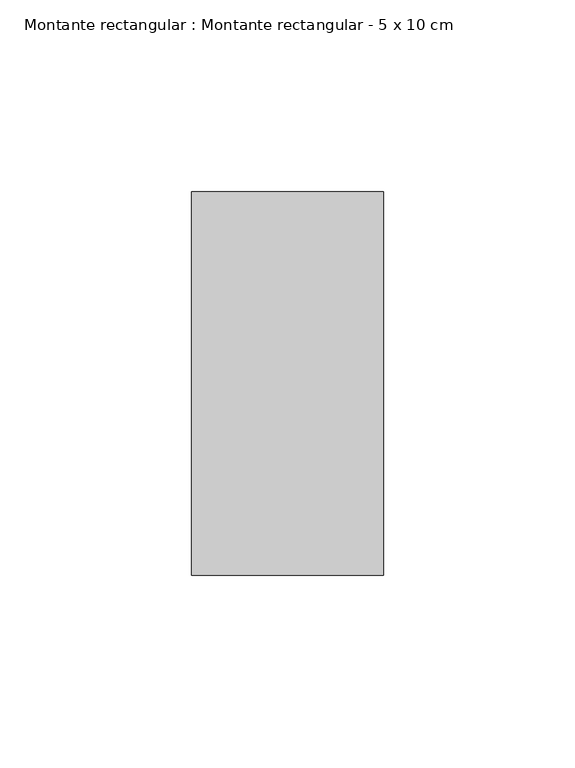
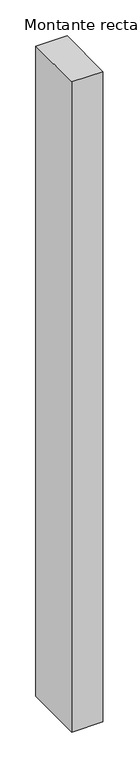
"""IFC4 building model written with IfcOpenShell, lengths in millimetres: member geometry, Montante rectangular : Montante rectangular - 5 x 10 cm."""

from ifc_helpers import new_model, si_unit, frame, origin, place, context, project, spatial, polyline, outline, extrude, source, transform, mapped, element, save


def montante_rectangular_montante_rectangular_5_x_10_cm_a1918c3d(model_context):
    return source(origin(), model_context, "Body", "SweptSolid", [
        extrude(outline(polyline([(-50.0, 50.0), (0.0, 50.0), (0.0, -50.0), (-50.0, -50.0), (-50.0, 50.0)])), frame((0.0, 0.0, -1105.0), z_axis=(0.0, 0.0, 1.0), x_axis=(1.0, 0.0, 0.0)), (0.0, 0.0, 1.0), 1105.0),
    ])


if __name__ == "__main__":
    model = new_model("IFC4")
    model_context = context("Model", 3, world=origin())
    ifc_project = project(units=[si_unit("LENGTHUNIT", "METRE", prefix="MILLI")], contexts=[model_context])
    site = spatial("IfcSite", under=ifc_project)
    building = spatial("IfcBuilding", under=site)
    placement = place(None, origin())
    montante_rectangular_montante_rectangular_5_x_10_cm_shape = montante_rectangular_montante_rectangular_5_x_10_cm_a1918c3d(model_context)
    element("IfcMember", 1, ObjectType="Montante rectangular : Montante rectangular - 5 x 10 cm", at=placement, inside=building, context=model_context, shape_type="MappedRepresentation", body=[
        mapped(montante_rectangular_montante_rectangular_5_x_10_cm_shape, transform((0.0, 0.0, 0.0), x_axis=(1.0, 0.0, 0.0), y_axis=(0.0, 1.0, 0.0), z_axis=(0.0, 0.0, 1.0))),
    ])
    save(model, "model.ifc")
